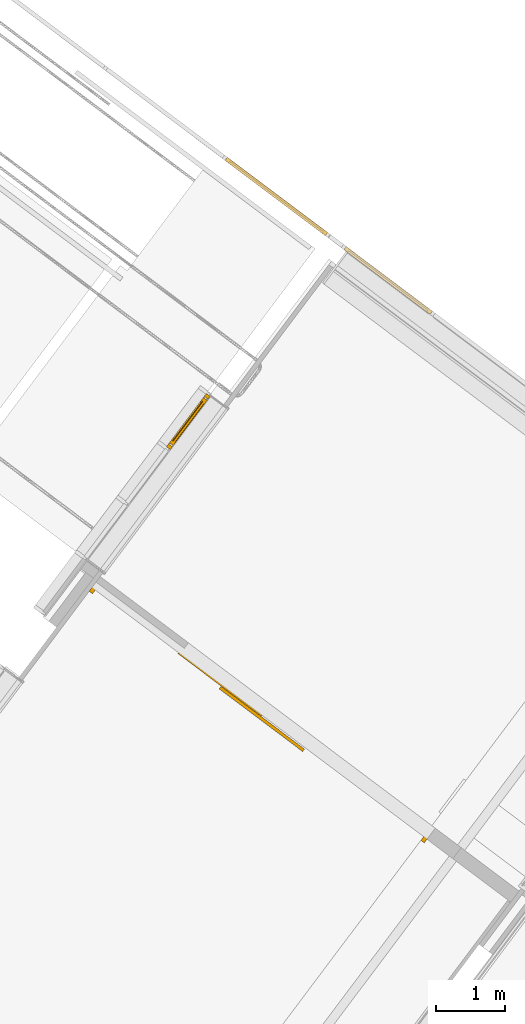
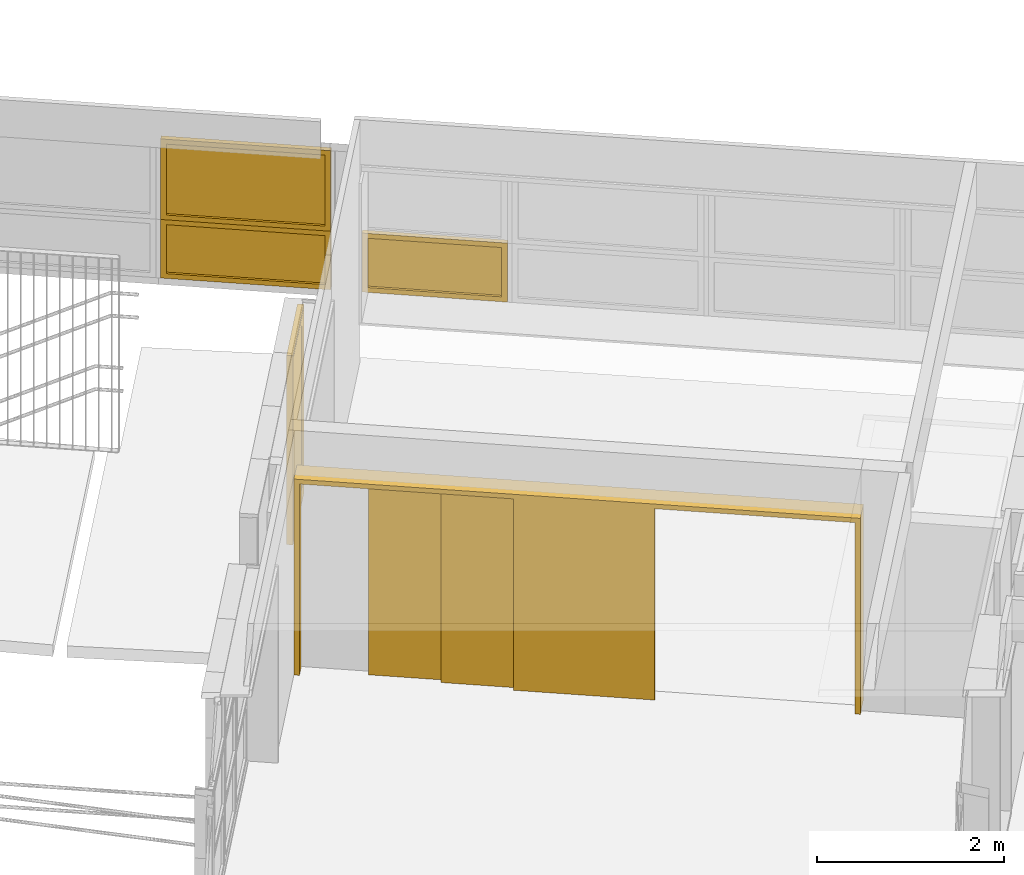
# One storey, part 232 of 243: 3 windows, 2 doors, 3 elements without a shape of their own.
"""IFC2X3 building model written with IfcOpenShell, lengths in metres."""

from ifc_helpers import new_model, entity, si_unit, converted_unit, derived_unit, direction, frame, origin, place, context, subcontext, project, spatial, faceted_brep, source, transform, mapped, material, material_list, type_object, type_shapes, element, aggregate, save


model = new_model("IFC2X3")

# Units and contexts
model_context = context("Model", 3, precision=1e-05, world=origin(), true_north=direction((6.123031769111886e-17, 1.0)))
body_context = subcontext(model_context, "Body", "Model", "MODEL_VIEW")
ifc_project = project(units=[si_unit("LENGTHUNIT", "METRE"), si_unit("AREAUNIT", "SQUARE_METRE"), si_unit("VOLUMEUNIT", "CUBIC_METRE"), converted_unit("PLANEANGLEUNIT", "DEGREE", entity("IfcRatioMeasure", 0.017453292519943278), si_unit("PLANEANGLEUNIT", "RADIAN"), dimensions=[0, 0, 0, 0, 0, 0, 0]), si_unit("MASSUNIT", "GRAM", prefix="KILO"), derived_unit("MASSDENSITYUNIT", [(si_unit("MASSUNIT", "GRAM", prefix="KILO"), 1), (si_unit("LENGTHUNIT", "METRE"), -3)]), derived_unit("IONCONCENTRATIONUNIT", [(si_unit("MASSUNIT", "GRAM", prefix="KILO"), 1), (si_unit("LENGTHUNIT", "METRE"), -3)]), derived_unit("MOMENTOFINERTIAUNIT", [(si_unit("LENGTHUNIT", "METRE"), 4)]), si_unit("TIMEUNIT", "SECOND"), si_unit("FREQUENCYUNIT", "HERTZ"), si_unit("THERMODYNAMICTEMPERATUREUNIT", "DEGREE_CELSIUS"), derived_unit("THERMALTRANSMITTANCEUNIT", [(si_unit("MASSUNIT", "GRAM", prefix="KILO"), 1), (si_unit("THERMODYNAMICTEMPERATUREUNIT", "KELVIN"), -1), (si_unit("TIMEUNIT", "SECOND"), -3)]), derived_unit("THERMALCONDUCTANCEUNIT", [(si_unit("MASSUNIT", "GRAM", prefix="KILO"), 1), (si_unit("THERMODYNAMICTEMPERATUREUNIT", "KELVIN"), -1), (si_unit("TIMEUNIT", "SECOND"), -3), (si_unit("LENGTHUNIT", "METRE"), 1)]), derived_unit("VOLUMETRICFLOWRATEUNIT", [(si_unit("LENGTHUNIT", "METRE"), 3), (si_unit("TIMEUNIT", "SECOND"), -1)]), derived_unit("MASSFLOWRATEUNIT", [(si_unit("MASSUNIT", "GRAM", prefix="KILO"), 1), (si_unit("TIMEUNIT", "SECOND"), -1)]), derived_unit("ROTATIONALFREQUENCYUNIT", [(si_unit("TIMEUNIT", "SECOND"), -1)]), si_unit("ELECTRICCURRENTUNIT", "AMPERE"), si_unit("ELECTRICVOLTAGEUNIT", "VOLT"), si_unit("POWERUNIT", "WATT"), si_unit("FORCEUNIT", "NEWTON", prefix="KILO"), si_unit("ILLUMINANCEUNIT", "LUX"), si_unit("LUMINOUSFLUXUNIT", "LUMEN"), si_unit("LUMINOUSINTENSITYUNIT", "CANDELA"), derived_unit("USERDEFINED", [(si_unit("MASSUNIT", "GRAM", prefix="KILO"), -1), (si_unit("LENGTHUNIT", "METRE"), -2), (si_unit("TIMEUNIT", "SECOND"), 3), (si_unit("LUMINOUSFLUXUNIT", "LUMEN"), 1)]), derived_unit("USERDEFINED", [(si_unit("MASSUNIT", "GRAM", prefix="KILO"), 1), (si_unit("TIMEUNIT", "SECOND"), -3), (si_unit("LENGTHUNIT", "METRE"), 3), (si_unit("ELECTRICCURRENTUNIT", "AMPERE"), -2)]), derived_unit("SOUNDPOWERUNIT", [(si_unit("MASSUNIT", "GRAM", prefix="KILO"), 1), (si_unit("TIMEUNIT", "SECOND"), -3), (si_unit("LENGTHUNIT", "METRE"), 2)]), derived_unit("SOUNDPRESSUREUNIT", [(si_unit("MASSUNIT", "GRAM", prefix="KILO"), 1), (si_unit("LENGTHUNIT", "METRE"), -1), (si_unit("TIMEUNIT", "SECOND"), -2)]), derived_unit("LINEARVELOCITYUNIT", [(si_unit("LENGTHUNIT", "METRE"), 1), (si_unit("TIMEUNIT", "SECOND"), -1)]), si_unit("PRESSUREUNIT", "PASCAL"), derived_unit("USERDEFINED", [(si_unit("MASSUNIT", "GRAM", prefix="KILO"), 1), (si_unit("LENGTHUNIT", "METRE"), -2), (si_unit("TIMEUNIT", "SECOND"), -2)]), derived_unit("LINEARFORCEUNIT", [(si_unit("MASSUNIT", "GRAM", prefix="KILO"), 1), (si_unit("TIMEUNIT", "SECOND"), -2)]), derived_unit("PLANARFORCEUNIT", [(si_unit("MASSUNIT", "GRAM", prefix="KILO"), 1), (si_unit("LENGTHUNIT", "METRE"), -1), (si_unit("TIMEUNIT", "SECOND"), -2)]), derived_unit("SPECIFICHEATCAPACITYUNIT", [(si_unit("THERMODYNAMICTEMPERATUREUNIT", "KELVIN"), -1), (si_unit("LENGTHUNIT", "METRE"), 2), (si_unit("TIMEUNIT", "SECOND"), -2)]), derived_unit("HEATINGVALUEUNIT", [(si_unit("LENGTHUNIT", "METRE"), 2), (si_unit("TIMEUNIT", "SECOND"), -2)]), derived_unit("VAPORPERMEABILITYUNIT", [(si_unit("LENGTHUNIT", "METRE"), -1), (si_unit("TIMEUNIT", "SECOND"), 1)]), derived_unit("DYNAMICVISCOSITYUNIT", [(si_unit("MASSUNIT", "GRAM", prefix="KILO"), 1), (si_unit("TIMEUNIT", "SECOND"), -1), (si_unit("LENGTHUNIT", "METRE"), -1)]), derived_unit("THERMALEXPANSIONCOEFFICIENTUNIT", [(si_unit("THERMODYNAMICTEMPERATUREUNIT", "KELVIN"), -1)]), derived_unit("MODULUSOFELASTICITYUNIT", [(si_unit("MASSUNIT", "GRAM", prefix="KILO"), 1), (si_unit("LENGTHUNIT", "METRE"), -1), (si_unit("TIMEUNIT", "SECOND"), -2)]), derived_unit("ISOTHERMALMOISTURECAPACITYUNIT", [(si_unit("LENGTHUNIT", "METRE"), 3), (si_unit("MASSUNIT", "GRAM", prefix="KILO"), -1)]), derived_unit("MOISTUREDIFFUSIVITYUNIT", [(si_unit("TIMEUNIT", "SECOND"), -1), (si_unit("LENGTHUNIT", "METRE"), 2)])], contexts=[model_context])

# Site, building, storey
site_placement = place(None, frame((0.0, 0.0, 235.0), z_axis=(0.0, 0.0, 1.0), x_axis=(-0.7996477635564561, 0.6004693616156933, 0.0)))
site = spatial("IfcSite", under=ifc_project, at=site_placement, Name="Default", CompositionType="ELEMENT")
building_placement = place(site_placement, origin())
building = spatial("IfcBuilding", under=site, at=building_placement, CompositionType="ELEMENT")
storey_placement = place(building_placement, origin())
storey = spatial("IfcBuildingStorey", under=building, at=storey_placement, Name="P0- Escola", CompositionType="ELEMENT", Elevation=0.0)

# Curtain wall, door
curtain_wall_type_1 = type_object("IfcCurtainWallType", Name="Muro cortina:MC- EXT- MC2", PredefinedType="NOTDEFINED")
curtain_wall_1_placement = place(storey_placement, origin())
curtain_wall_1 = element("IfcCurtainWall", 1, at=curtain_wall_1_placement, inside=storey, type_object=curtain_wall_type_1, Name="Muro cortina:MC- EXT- MC2", ObjectType="Muro cortina:MC- EXT- MC2")
ifc_material_1 = material(Name="_Alumini- T1- Perfil")
ifc_material_2 = material(Name="_Vidre")
ifc_material_list_1 = material_list([ifc_material_1, ifc_material_2])
door_style_1 = type_object("IfcDoorStyle", Name="MC- Alu- Conjunt porta- 70x60 cm- +15cm- obertura int:MC- Alu- Conjunt porta- 70x60 cm- +15cm- obertura int", ConstructionType="NOTDEFINED", OperationType="NOTDEFINED", ParameterTakesPrecedence=False, Sizeable=False, material=ifc_material_list_1)
shared_shape_1 = source(origin(), body_context, "Body", "Brep", [
    faceted_brep([(0.41169999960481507, 0.0, 0.024000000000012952), (0.41169999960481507, -0.0656997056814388, 0.024000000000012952), (-0.4116999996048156, -0.06569970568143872, 0.024000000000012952), (-0.4116999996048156, 0.0, 0.024000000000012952), (0.4116999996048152, -0.0656997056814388, 2.398149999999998), (0.4116999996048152, 0.0, 2.398149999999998), (-0.4116999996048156, -0.06569970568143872, 2.398149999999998), (-0.43569999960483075, -0.06569970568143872, 0.0), (-0.43569999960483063, -0.06569970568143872, 2.422150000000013), (0.43569999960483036, -0.06569970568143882, 2.422150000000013), (0.43569999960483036, -0.0656997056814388, 0.0), (-0.4116999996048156, 0.0, 2.398149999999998), (0.33509999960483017, 0.0, 2.321550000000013), (-0.3350999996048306, 0.0, 2.3215500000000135), (-0.3350999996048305, 0.0, 0.20400000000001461), (0.33509999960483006, 0.0, 0.20400000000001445), (-0.43569999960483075, -0.06999970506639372, 2.422150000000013), (-0.43569999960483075, -0.0699997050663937, 0.0), (0.43569999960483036, -0.06999970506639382, 0.0), (0.4356999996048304, -0.06999970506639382, 2.422150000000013), (-0.33509999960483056, -0.06999970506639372, 2.321550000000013), (0.33509999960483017, -0.06999970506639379, 2.321550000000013), (0.33509999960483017, -0.0699997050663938, 0.20400000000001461), (-0.3350999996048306, -0.06999970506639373, 0.20400000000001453), (-0.33509999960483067, -0.06449970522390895, 2.321550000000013), (-0.3350999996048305, -0.06449970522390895, 0.20400000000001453), (0.33509999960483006, -0.06449970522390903, 0.20400000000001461), (0.33509999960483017, -0.06449970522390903, 2.321550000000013), (-0.3601000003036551, -0.06449970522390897, 2.3465500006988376), (0.3601000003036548, -0.06449970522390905, 2.3465500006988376), (0.36010000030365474, -0.06449970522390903, 0.17899999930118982), (-0.36010000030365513, -0.06449970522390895, 0.17899999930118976), (-0.3601000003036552, -0.018999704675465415, 2.3465500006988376), (-0.36010000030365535, -0.01899970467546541, 0.17899999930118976), (0.36010000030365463, -0.01899970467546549, 0.17899999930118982), (0.36010000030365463, -0.01899970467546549, 2.3465500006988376), (-0.33509999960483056, -0.018999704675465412, 2.321550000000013), (0.33509999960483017, -0.018999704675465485, 2.321550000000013), (0.33509999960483, -0.01899970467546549, 0.20400000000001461), (-0.3350999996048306, -0.018999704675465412, 0.20400000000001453)], [[[0, 1, 2, 3]], [[4, 1, 0, 5]], [[2, 1, 4, 6], [7, 8, 9, 10]], [[2, 6, 11, 3]], [[12, 13, 14, 15], [11, 5, 0, 3]], [[16, 8, 7, 17]], [[10, 18, 17, 7]], [[18, 19, 16, 17], [20, 21, 22, 23]], [[24, 20, 23, 25]], [[23, 22, 26, 25]], [[27, 24, 25, 26], [28, 29, 30, 31]], [[32, 28, 31, 33]], [[33, 31, 30, 34]], [[35, 32, 33, 34], [36, 37, 38, 39]], [[13, 36, 39, 14]], [[39, 38, 15, 14]], [[9, 19, 18, 10]], [[21, 27, 26, 22]], [[29, 35, 34, 30]], [[37, 12, 15, 38]], [[19, 9, 8, 16]], [[27, 21, 20, 24]], [[35, 29, 28, 32]], [[12, 37, 36, 13]], [[4, 5, 11, 6]]], outer=[[True], [True], [False, True], [True], [False, True], [True], [True], [True, False], [True], [True], [False, True], [True], [True], [True, False], [True], [True], [True], [True], [True], [True], [True], [True], [True], [True], [True]]),
    faceted_brep([(-0.36010000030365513, -0.06089980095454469, 0.17899999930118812), (-0.36010000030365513, -0.02889980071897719, 0.17899999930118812), (0.3601000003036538, -0.028899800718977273, 0.17899999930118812), (0.36010000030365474, -0.06089980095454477, 0.17899999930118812), (-0.36010000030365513, -0.06089980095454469, 2.346550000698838), (-0.36010000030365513, -0.028899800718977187, 2.346550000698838), (0.3601000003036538, -0.028899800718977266, 2.346550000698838), (0.36010000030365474, -0.06089980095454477, 2.346550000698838)], [[[0, 1, 2, 3]], [[4, 5, 1, 0]], [[5, 6, 2, 1]], [[6, 7, 3, 2]], [[7, 4, 0, 3]], [[4, 7, 6, 5]]]),
    faceted_brep([(0.484999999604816, -0.06999999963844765, 0.0), (0.4436999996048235, -0.06999999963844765, 0.0), (0.4436999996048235, -0.059699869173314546, 0.0), (0.43319996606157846, -0.059699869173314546, 0.0), (0.43319996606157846, -0.008800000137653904, 0.0), (0.41769999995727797, -0.008800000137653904, 0.0), (0.41769999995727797, 0.0, 0.0), (0.484999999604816, 0.0, 0.0), (0.484999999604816, -0.06999999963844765, 2.471449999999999), (-0.484999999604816, -0.06999999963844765, 2.471449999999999), (-0.484999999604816, -0.06999999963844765, 0.0), (-0.4436999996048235, -0.06999999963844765, 0.0), (-0.4436999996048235, -0.06999999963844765, 2.430150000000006), (0.4436999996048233, -0.06999999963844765, 2.4301500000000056), (0.4436999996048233, -0.059699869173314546, 2.4301500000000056), (-0.4436999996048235, -0.059699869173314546, 2.430150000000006), (-0.4436999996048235, -0.059699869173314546, 0.0), (-0.43319996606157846, -0.059699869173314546, 0.0), (-0.43319996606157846, -0.059699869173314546, 2.419649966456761), (0.43319996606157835, -0.059699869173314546, 2.419649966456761), (0.43319996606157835, -0.008800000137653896, 2.419649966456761), (-0.43319996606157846, -0.008800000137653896, 2.419649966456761), (-0.43319996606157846, -0.008800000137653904, 0.0), (-0.41769999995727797, -0.008800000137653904, 0.0), (-0.41769999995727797, -0.008800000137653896, 2.4041500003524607), (0.41769999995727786, -0.008800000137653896, 2.4041500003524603), (0.41769999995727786, 0.0, 2.4041500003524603), (-0.41769999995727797, 0.0, 2.4041500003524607), (-0.41769999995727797, 0.0, 0.0), (-0.484999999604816, 0.0, 0.0), (-0.484999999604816, 0.0, 2.4714499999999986), (0.4849999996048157, 0.0, 2.471449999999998)], [[[0, 1, 2, 3, 4, 5, 6, 7]], [[1, 0, 8, 9, 10, 11, 12, 13]], [[2, 1, 13, 14]], [[3, 2, 14, 15, 16, 17, 18, 19]], [[4, 3, 19, 20]], [[5, 4, 20, 21, 22, 23, 24, 25]], [[6, 5, 25, 26]], [[7, 6, 26, 27, 28, 29, 30, 31]], [[0, 7, 31, 8]], [[10, 29, 28, 23, 22, 17, 16, 11]], [[9, 30, 29, 10]], [[27, 24, 23, 28]], [[21, 18, 17, 22]], [[15, 12, 11, 16]], [[14, 13, 12, 15]], [[20, 19, 18, 21]], [[26, 25, 24, 27]], [[8, 31, 30, 9]]]),
])
type_shapes(door_style_1, [shared_shape_1])
door_1_placement = place(curtain_wall_1_placement, frame((23.945147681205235, -38.915191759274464, 0.03229999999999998), z_axis=(0.0, 0.0, 1.0), x_axis=(0.0, -1.0, 0.0)))
door_1 = element("IfcDoor", 2, at=door_1_placement, type_object=door_style_1, material=ifc_material_list_1, Name="MC- Alu- Conjunt porta- 70x60 cm- +15cm- obertura int:MC- Alu- Conjunt porta- 70x60 cm- +15cm- obertura int", ObjectType="MC- Alu- Conjunt porta- 70x60 cm- +15cm- obertura int:MC- Alu- Conjunt porta- 70x60 cm- +15cm- obertura int", OverallHeight=2.4714500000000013, OverallWidth=0.969999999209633, context=body_context, shape_type="MappedRepresentation", body=[
    mapped(shared_shape_1, transform((0.0, 0.0, 0.0), scale=1.0)),
])
aggregate(curtain_wall_1, [door_1])

# Curtain wall, window
curtain_wall_type_2 = type_object("IfcCurtainWallType", Name="Muro cortina:MC- EXT- MC6", PredefinedType="NOTDEFINED")
curtain_wall_2_placement = place(storey_placement, origin())
curtain_wall_2 = element("IfcCurtainWall", 3, at=curtain_wall_2_placement, inside=storey, type_object=curtain_wall_type_2, Name="Muro cortina:MC- EXT- MC6", ObjectType="Muro cortina:MC- EXT- MC6")
ifc_material_list_2 = material_list([ifc_material_2, ifc_material_1])
window_style_1 = type_object("IfcWindowStyle", Name="MC- Alu- Conjunt vidre fix- 62x60 cm:MC- Alu- Conjunt vidre fix- 62x60 cm", ConstructionType="NOTDEFINED", OperationType="NOTDEFINED", ParameterTakesPrecedence=False, Sizeable=False, material=ifc_material_list_2)
shared_shape_2 = source(origin(), body_context, "Body", "Brep", [
    faceted_brep([(0.7361932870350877, -0.007600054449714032, 0.048806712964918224), (0.7361932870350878, -0.03160022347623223, 0.048806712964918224), (-0.7361932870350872, -0.03160022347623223, 0.048806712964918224), (-0.7361932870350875, -0.007600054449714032, 0.048806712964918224), (0.7361932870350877, -0.007600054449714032, 0.7210000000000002), (-0.7361932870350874, -0.007600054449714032, 0.7210000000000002), (-0.7361932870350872, -0.03160022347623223, 0.7210000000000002), (0.7361932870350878, -0.03160022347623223, 0.7210000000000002)], [[[0, 1, 2, 3]], [[4, 0, 3, 5]], [[5, 3, 2, 6]], [[6, 2, 1, 7]], [[7, 1, 0, 4]], [[4, 5, 6, 7]]]),
    faceted_brep([(0.7850000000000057, -0.05999999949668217, 0.7700000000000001), (0.7850000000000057, -0.05999999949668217, 0.0), (0.7850000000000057, 0.0, 0.0), (0.7850000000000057, 0.0, 0.7700000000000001), (-0.7850000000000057, 0.0, 0.7700000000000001), (-0.7850000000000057, 0.0, 0.0), (0.7221931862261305, 0.0, 0.707193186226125), (-0.7221931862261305, 0.0, 0.707193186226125), (-0.7221931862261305, 0.0, 0.06280681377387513), (0.7221931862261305, 0.0, 0.06280681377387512), (-0.7850000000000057, -0.05999999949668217, 0.0), (-0.7850000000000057, -0.05999999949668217, 0.7700000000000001), (-0.7221960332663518, -0.05999999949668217, 0.7071960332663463), (0.7221960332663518, -0.05999999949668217, 0.7071960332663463), (0.7221960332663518, -0.05999999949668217, 0.06280396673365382), (-0.7221960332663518, -0.05999999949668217, 0.06280396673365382), (0.7221960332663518, -0.03160022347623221, 0.7071960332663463), (0.7221960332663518, -0.03160022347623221, 0.06280396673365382), (-0.7221960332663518, -0.03160022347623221, 0.06280396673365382), (-0.7221960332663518, -0.03160022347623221, 0.7071960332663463), (-0.7361932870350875, -0.03160022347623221, 0.721193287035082), (0.7361932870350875, -0.03160022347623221, 0.721193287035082), (0.7361932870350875, -0.03160022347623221, 0.048806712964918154), (-0.7361932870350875, -0.03160022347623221, 0.04880671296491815), (0.7361932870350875, -0.007600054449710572, 0.721193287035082), (0.7361932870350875, -0.007600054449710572, 0.04880671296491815), (-0.7361932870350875, -0.007600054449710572, 0.048806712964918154), (-0.7361932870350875, -0.007600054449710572, 0.721193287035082), (-0.7221931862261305, -0.007600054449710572, 0.707193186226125), (0.7221931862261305, -0.007600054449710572, 0.707193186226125), (0.7221931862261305, -0.007600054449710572, 0.06280681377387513), (-0.7221931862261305, -0.007600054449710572, 0.06280681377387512)], [[[0, 1, 2, 3]], [[4, 3, 2, 5], [6, 7, 8, 9]], [[1, 10, 5, 2]], [[0, 11, 10, 1], [12, 13, 14, 15]], [[16, 17, 14, 13]], [[17, 18, 15, 14]], [[16, 19, 18, 17], [20, 21, 22, 23]], [[24, 25, 22, 21]], [[25, 26, 23, 22]], [[24, 27, 26, 25], [28, 29, 30, 31]], [[6, 9, 30, 29]], [[9, 8, 31, 30]], [[10, 11, 4, 5]], [[18, 19, 12, 15]], [[26, 27, 20, 23]], [[8, 7, 28, 31]], [[11, 0, 3, 4]], [[19, 16, 13, 12]], [[27, 24, 21, 20]], [[7, 6, 29, 28]]], outer=[[True], [True, False], [True], [True, False], [True], [True], [False, True], [True], [True], [True, False], [True], [True], [True], [True], [True], [True], [True], [True], [True], [True]]),
])
type_shapes(window_style_1, [shared_shape_2])
window_1_placement = place(curtain_wall_2_placement, frame((22.815147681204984, -42.34019175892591, 0.685), z_axis=(0.0, 0.0, 1.0), x_axis=(-1.0, 0.0, 0.0)))
window_1 = element("IfcWindow", 4, at=window_1_placement, type_object=window_style_1, material=ifc_material_list_2, Name="MC- Alu- Conjunt vidre fix- 62x60 cm:MC- Alu- Conjunt vidre fix- 62x60 cm", ObjectType="MC- Alu- Conjunt vidre fix- 62x60 cm:MC- Alu- Conjunt vidre fix- 62x60 cm", OverallHeight=0.7700000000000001, OverallWidth=1.5700000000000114, context=body_context, shape_type="MappedRepresentation", body=[
    mapped(shared_shape_2, transform((0.0, 0.0, 0.0), scale=1.0)),
])
aggregate(curtain_wall_2, [window_1])

# Curtain wall, windows
curtain_wall_type_3 = type_object("IfcCurtainWallType", Name="Muro cortina:MC- EXT- MC9", PredefinedType="NOTDEFINED")
curtain_wall_3_placement = place(storey_placement, origin())
curtain_wall_3 = element("IfcCurtainWall", 5, at=curtain_wall_3_placement, inside=storey, type_object=curtain_wall_type_3, Name="Muro cortina:MC- EXT- MC9", ObjectType="Muro cortina:MC- EXT- MC9")
window_style_2 = type_object("IfcWindowStyle", Name="MC- Alu- Conjunt vidre fix- 62x60 cm:MC- Alu- Conjunt vidre fix- 62x60 cm", ConstructionType="NOTDEFINED", OperationType="NOTDEFINED", ParameterTakesPrecedence=False, Sizeable=False, material=ifc_material_list_2)
shared_shape_3 = source(origin(), body_context, "Body", "Brep", [
    faceted_brep([(0.8681912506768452, -0.007600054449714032, 0.048806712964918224), (0.8681912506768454, -0.03160022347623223, 0.048806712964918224), (-0.8681912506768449, -0.03160022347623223, 0.048806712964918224), (-0.8681912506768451, -0.007600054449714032, 0.048806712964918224), (0.8681912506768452, -0.007600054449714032, 0.7160000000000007), (-0.868191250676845, -0.007600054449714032, 0.7160000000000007), (-0.8681912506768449, -0.03160022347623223, 0.7160000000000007), (0.8681912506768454, -0.03160022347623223, 0.7160000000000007)], [[[0, 1, 2, 3]], [[4, 0, 3, 5]], [[5, 3, 2, 6]], [[6, 2, 1, 7]], [[7, 1, 0, 4]], [[4, 5, 6, 7]]]),
    faceted_brep([(0.9169979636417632, -0.05999999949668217, 0.7650000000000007), (0.9169979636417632, -0.05999999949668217, 0.0), (0.9169979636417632, 0.0, 0.0), (0.9169979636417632, 0.0, 0.7650000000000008), (-0.9169979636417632, 0.0, 0.7650000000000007), (-0.9169979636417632, 0.0, 0.0), (0.8541911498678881, 0.0, 0.7021931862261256), (-0.8541911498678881, 0.0, 0.7021931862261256), (-0.8541911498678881, 0.0, 0.06280681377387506), (0.8541911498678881, 0.0, 0.06280681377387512), (-0.9169979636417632, -0.05999999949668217, 0.0), (-0.9169979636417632, -0.05999999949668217, 0.7650000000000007), (-0.8541939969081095, -0.05999999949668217, 0.7021960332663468), (0.8541939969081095, -0.05999999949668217, 0.7021960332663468), (0.8541939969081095, -0.05999999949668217, 0.06280396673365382), (-0.8541939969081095, -0.05999999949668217, 0.06280396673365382), (0.8541939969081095, -0.03160022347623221, 0.7021960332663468), (0.8541939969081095, -0.03160022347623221, 0.06280396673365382), (-0.8541939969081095, -0.03160022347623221, 0.0628039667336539), (-0.8541939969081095, -0.03160022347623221, 0.7021960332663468), (-0.8681912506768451, -0.03160022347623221, 0.7161932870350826), (0.8681912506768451, -0.03160022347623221, 0.7161932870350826), (0.8681912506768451, -0.03160022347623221, 0.048806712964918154), (-0.8681912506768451, -0.03160022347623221, 0.04880671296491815), (0.8681912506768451, -0.007600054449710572, 0.7161932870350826), (0.8681912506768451, -0.007600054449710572, 0.04880671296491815), (-0.8681912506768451, -0.007600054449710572, 0.048806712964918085), (-0.8681912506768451, -0.007600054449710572, 0.7161932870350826), (-0.8541911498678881, -0.007600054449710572, 0.7021931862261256), (0.8541911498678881, -0.007600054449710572, 0.7021931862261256), (0.8541911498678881, -0.007600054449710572, 0.06280681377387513), (-0.8541911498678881, -0.007600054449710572, 0.06280681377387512)], [[[0, 1, 2, 3]], [[4, 3, 2, 5], [6, 7, 8, 9]], [[1, 10, 5, 2]], [[0, 11, 10, 1], [12, 13, 14, 15]], [[16, 17, 14, 13]], [[17, 18, 15, 14]], [[16, 19, 18, 17], [20, 21, 22, 23]], [[24, 25, 22, 21]], [[25, 26, 23, 22]], [[24, 27, 26, 25], [28, 29, 30, 31]], [[6, 9, 30, 29]], [[9, 8, 31, 30]], [[10, 11, 4, 5]], [[18, 19, 12, 15]], [[26, 27, 20, 23]], [[8, 7, 28, 31]], [[11, 0, 3, 4]], [[19, 16, 13, 12]], [[27, 24, 21, 20]], [[7, 6, 29, 28]]], outer=[[True], [True, False], [True], [True, False], [True], [True], [False, True], [True], [True], [True, False], [True], [True], [True], [True], [True], [True], [True], [True], [True], [True]]),
])
type_shapes(window_style_2, [shared_shape_3])
window_2_placement = place(curtain_wall_3_placement, frame((24.852145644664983, -42.3401917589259, 0.685), z_axis=(0.0, 0.0, 1.0), x_axis=(-1.0, 0.0, 0.0)))
window_2 = element("IfcWindow", 6, at=window_2_placement, type_object=window_style_2, material=ifc_material_list_2, Name="MC- Alu- Conjunt vidre fix- 62x60 cm:MC- Alu- Conjunt vidre fix- 62x60 cm", ObjectType="MC- Alu- Conjunt vidre fix- 62x60 cm:MC- Alu- Conjunt vidre fix- 62x60 cm", OverallHeight=0.765000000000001, OverallWidth=1.8339959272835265, context=body_context, shape_type="MappedRepresentation", body=[
    mapped(shared_shape_3, transform((0.0, 0.0, 0.0), scale=1.0)),
])
window_style_3 = type_object("IfcWindowStyle", Name="MC- Alu- Conjunt vidre fix- 62x60 cm:MC- Alu- Conjunt vidre fix- 62x60 cm", ConstructionType="NOTDEFINED", OperationType="NOTDEFINED", ParameterTakesPrecedence=False, Sizeable=False, material=ifc_material_list_2)
shared_shape_4 = source(origin(), body_context, "Body", "Brep", [
    faceted_brep([(0.8681912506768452, -0.007600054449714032, 0.048806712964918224), (0.8681912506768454, -0.03160022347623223, 0.048806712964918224), (-0.8681912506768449, -0.03160022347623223, 0.048806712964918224), (-0.8681912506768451, -0.007600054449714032, 0.048806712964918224), (0.8681912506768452, -0.007600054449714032, 1.003500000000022), (-0.868191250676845, -0.007600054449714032, 1.003500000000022), (-0.8681912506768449, -0.03160022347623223, 1.003500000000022), (0.8681912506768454, -0.03160022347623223, 1.003500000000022)], [[[0, 1, 2, 3]], [[4, 0, 3, 5]], [[5, 3, 2, 6]], [[6, 2, 1, 7]], [[7, 1, 0, 4]], [[4, 5, 6, 7]]]),
    faceted_brep([(0.9169979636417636, -0.05999999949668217, 1.052500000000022), (0.9169979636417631, -0.05999999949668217, 0.0), (0.9169979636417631, 0.0, 0.0), (0.9169979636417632, 0.0, 1.0525000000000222), (-0.9169979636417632, 0.0, 1.052500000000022), (-0.9169979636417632, 0.0, 0.0), (0.8541911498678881, 0.0, 0.9896931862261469), (-0.854191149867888, 0.0, 0.9896931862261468), (-0.8541911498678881, 0.0, 0.06280681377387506), (0.8541911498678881, 0.0, 0.06280681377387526), (-0.9169979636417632, -0.05999999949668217, 0.0), (-0.9169979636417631, -0.05999999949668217, 1.0525000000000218), (-0.8541939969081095, -0.05999999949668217, 0.9896960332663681), (0.8541939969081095, -0.05999999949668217, 0.9896960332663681), (0.8541939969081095, -0.05999999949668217, 0.06280396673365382), (-0.8541939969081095, -0.05999999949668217, 0.06280396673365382), (0.8541939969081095, -0.03160022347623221, 0.9896960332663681), (0.8541939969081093, -0.03160022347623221, 0.06280396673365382), (-0.8541939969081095, -0.03160022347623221, 0.0628039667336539), (-0.8541939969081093, -0.03160022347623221, 0.989696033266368), (-0.8681912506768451, -0.03160022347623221, 1.0036932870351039), (0.8681912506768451, -0.03160022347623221, 1.0036932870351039), (0.8681912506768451, -0.03160022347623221, 0.048806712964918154), (-0.8681912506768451, -0.03160022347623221, 0.04880671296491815), (0.8681912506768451, -0.007600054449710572, 1.0036932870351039), (0.8681912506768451, -0.007600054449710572, 0.04880671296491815), (-0.8681912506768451, -0.007600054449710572, 0.048806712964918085), (-0.8681912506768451, -0.007600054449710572, 1.0036932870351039), (-0.8541911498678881, -0.007600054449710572, 0.9896931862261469), (0.8541911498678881, -0.007600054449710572, 0.9896931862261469), (0.8541911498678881, -0.007600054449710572, 0.06280681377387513), (-0.8541911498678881, -0.007600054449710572, 0.06280681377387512)], [[[0, 1, 2, 3]], [[4, 3, 2, 5], [6, 7, 8, 9]], [[1, 10, 5, 2]], [[0, 11, 10, 1], [12, 13, 14, 15]], [[16, 17, 14, 13]], [[17, 18, 15, 14]], [[16, 19, 18, 17], [20, 21, 22, 23]], [[24, 25, 22, 21]], [[25, 26, 23, 22]], [[24, 27, 26, 25], [28, 29, 30, 31]], [[6, 9, 30, 29]], [[9, 8, 31, 30]], [[10, 11, 4, 5]], [[18, 19, 12, 15]], [[26, 27, 20, 23]], [[8, 7, 28, 31]], [[11, 0, 3, 4]], [[19, 16, 13, 12]], [[27, 24, 21, 20]], [[7, 6, 29, 28]]], outer=[[True], [True, False], [True], [True, False], [True], [True], [False, True], [True], [True], [True, False], [True], [True], [True], [True], [True], [True], [True], [True], [True], [True]]),
])
type_shapes(window_style_3, [shared_shape_4])
window_3_placement = place(curtain_wall_3_placement, frame((24.852145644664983, -42.3401917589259, 1.4500000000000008), z_axis=(0.0, 0.0, 1.0), x_axis=(-1.0, 0.0, 0.0)))
window_3 = element("IfcWindow", 7, at=window_3_placement, type_object=window_style_3, material=ifc_material_list_2, Name="MC- Alu- Conjunt vidre fix- 62x60 cm:MC- Alu- Conjunt vidre fix- 62x60 cm", ObjectType="MC- Alu- Conjunt vidre fix- 62x60 cm:MC- Alu- Conjunt vidre fix- 62x60 cm", OverallHeight=1.0525000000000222, OverallWidth=1.833995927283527, context=body_context, shape_type="MappedRepresentation", body=[
    mapped(shared_shape_4, transform((0.0, 0.0, 0.0), scale=1.0)),
])
aggregate(curtain_wall_3, [window_2, window_3])

# Door
ifc_material_3 = material(Name="_Fusta massisa- T1")
door_style_2 = type_object("IfcDoorStyle", Name="FUS- Fusta- envà mobil 3 fulles:FUS- Fusta- envà mobil 3 fulles", ConstructionType="NOTDEFINED", OperationType="NOTDEFINED", ParameterTakesPrecedence=False, Sizeable=False, material=ifc_material_3)
shared_shape_5 = source(origin(), body_context, "Body", "Brep", [
    faceted_brep([(3.7979999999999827, 0.1670000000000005, 2.4999999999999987), (3.7979999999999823, 0.12199999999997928, 2.4999999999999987), (5.317999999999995, 0.12199999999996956, 2.4999999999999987), (5.317999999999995, 0.1669999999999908, 2.4999999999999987), (3.7979999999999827, 0.1670000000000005, 0.0), (5.317999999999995, 0.1669999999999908, 0.0), (5.317999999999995, 0.12199999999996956, 0.0), (3.7979999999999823, 0.12199999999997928, 0.0)], [[[0, 1, 2, 3]], [[4, 5, 6, 7]], [[1, 0, 4, 7]], [[2, 1, 7, 6]], [[3, 2, 6, 5]], [[0, 3, 5, 4]]]),
    faceted_brep([(3.0079999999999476, 0.21700000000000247, 2.4999999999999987), (3.007999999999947, 0.17199999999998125, 2.4999999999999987), (4.52799999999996, 0.1719999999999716, 2.4999999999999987), (4.52799999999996, 0.21699999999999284, 2.4999999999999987), (3.0079999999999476, 0.21700000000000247, 0.0), (4.52799999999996, 0.21699999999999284, 0.0), (4.52799999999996, 0.1719999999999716, 0.0), (3.007999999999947, 0.17199999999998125, 0.0)], [[[0, 1, 2, 3]], [[4, 5, 6, 7]], [[1, 0, 4, 7]], [[2, 1, 7, 6]], [[3, 2, 6, 5]], [[0, 3, 5, 4]]]),
    faceted_brep([(2.21799999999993, 0.26699999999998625, 2.4999999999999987), (2.21799999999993, 0.221999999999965, 2.4999999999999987), (3.737999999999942, 0.22199999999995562, 2.4999999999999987), (3.737999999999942, 0.26699999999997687, 2.4999999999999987), (2.21799999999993, 0.26699999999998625, 0.0), (3.737999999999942, 0.26699999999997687, 0.0), (3.737999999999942, 0.22199999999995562, 0.0), (2.21799999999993, 0.221999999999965, 0.0)], [[[0, 1, 2, 3]], [[4, 5, 6, 7]], [[1, 0, 4, 7]], [[2, 1, 7, 6]], [[3, 2, 6, 5]], [[0, 3, 5, 4]]]),
    faceted_brep([(0.06000000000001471, 0.0, 0.0), (0.0, 0.0, 0.0), (0.0, 0.2670000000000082, 0.0), (0.06000000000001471, 0.2670000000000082, 0.0), (0.06000000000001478, 0.0, 2.5000000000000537), (4.440000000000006, 0.0, 2.5000000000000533), (4.440000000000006, 0.0, 0.0), (4.500000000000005, 0.0, 0.0), (4.500000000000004, 0.0, 2.5000000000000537), (6.108000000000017, 0.0, 2.5000000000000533), (6.108000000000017, 0.0, 2.560000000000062), (0.0, 0.0, 2.5600000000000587), (0.0, 0.2669999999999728, 2.5600000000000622), (6.108000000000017, 0.2669999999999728, 2.560000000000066), (6.108000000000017, 0.2669999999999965, 0.0), (6.048000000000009, 0.2669999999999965, 0.0), (6.048000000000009, 0.26699999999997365, 2.5000000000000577), (0.06000000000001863, 0.2669999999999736, 2.5000000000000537), (4.440000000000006, 0.11699999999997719, 0.0), (4.440000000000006, 0.11699999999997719, 2.5000000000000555), (6.108000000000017, 0.11699999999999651, 0.0), (6.048000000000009, 0.11699999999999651, 0.0), (4.500000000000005, 0.11699999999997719, 0.0), (4.500000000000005, 0.11699999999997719, 2.5000000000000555), (6.108000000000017, 0.11699999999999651, 2.5000000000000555), (6.048000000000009, 0.11699999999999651, 2.5000000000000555)], [[[0, 1, 2, 3]], [[1, 0, 4, 5, 6, 7, 8, 9, 10, 11]], [[2, 1, 11, 12]], [[3, 2, 12, 13, 14, 15, 16, 17]], [[0, 3, 17, 4]], [[18, 6, 5, 19]], [[20, 21, 15, 14]], [[7, 22, 23, 8]], [[10, 9, 24, 20, 14, 13]], [[15, 21, 25, 16]], [[21, 20, 24, 25]], [[22, 18, 19, 23]], [[4, 17, 16, 25, 24, 9, 8, 23, 19, 5]], [[10, 13, 12, 11]], [[22, 7, 6, 18]]]),
])
type_shapes(door_style_2, [shared_shape_5])
door_2_placement = place(storey_placement, frame((17.47214768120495, -36.33619175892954, 0.0)))
element("IfcDoor", 8, at=door_2_placement, inside=storey, type_object=door_style_2, material=ifc_material_3, Name="FUS- Fusta- envà mobil 3 fulles:FUS- Fusta- envà mobil 3 fulles", ObjectType="FUS- Fusta- envà mobil 3 fulles:FUS- Fusta- envà mobil 3 fulles", OverallHeight=2.5600000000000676, OverallWidth=6.10800000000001, context=body_context, shape_type="MappedRepresentation", body=[
    mapped(shared_shape_5, transform((0.0, 0.0, 0.0), scale=1.0)),
])

save(model, "model.ifc")
